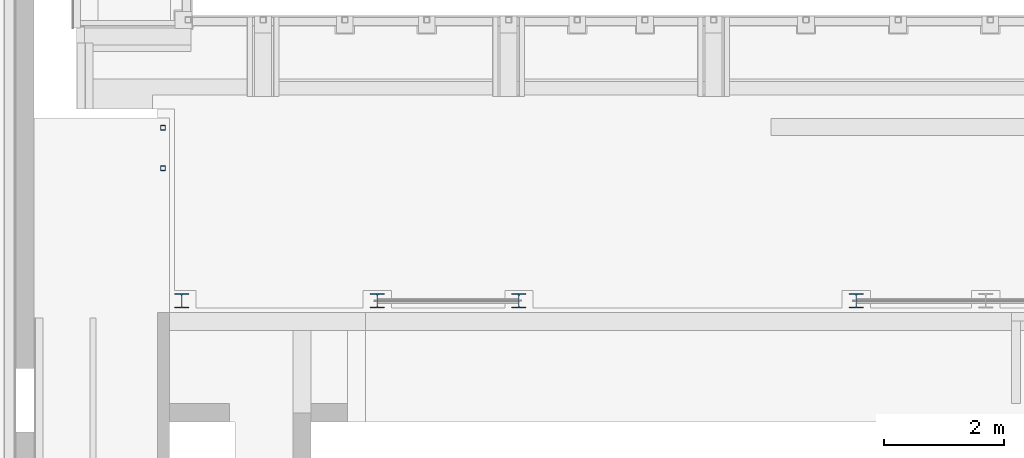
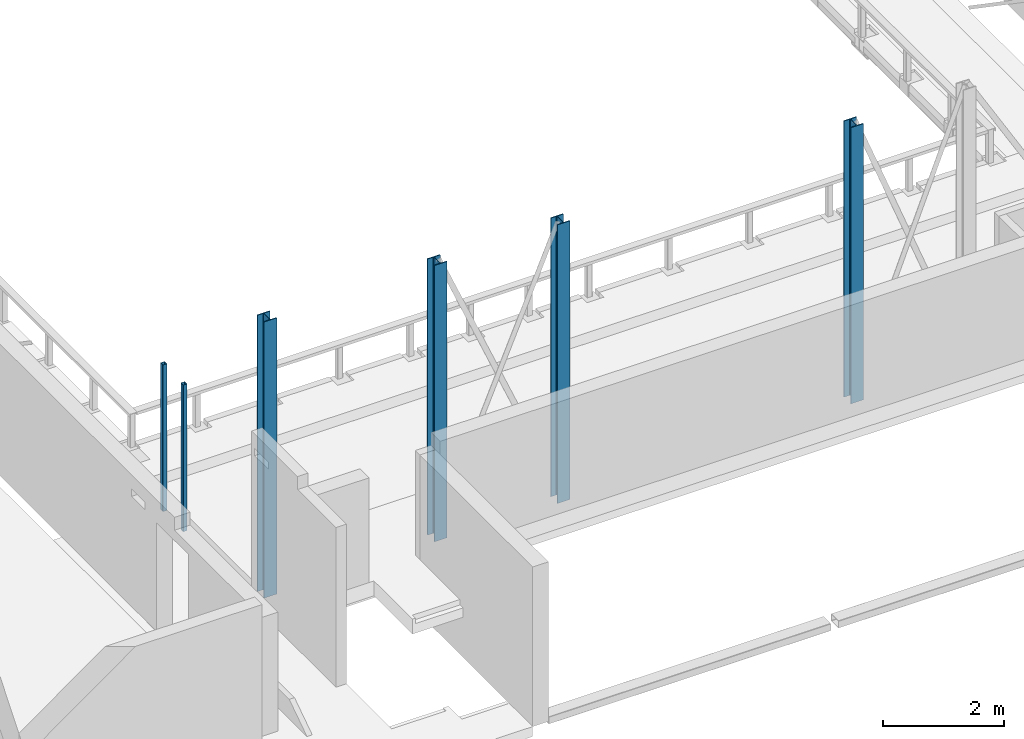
# One storey, part 1 of 68: 6 columns.
"""IFC2X3 building model written with IfcOpenShell, lengths in millimetres."""

from ifc_helpers import new_model, entity, si_unit, converted_unit, derived_unit, direction, frame, frame_2d, origin, place, context, subcontext, project, spatial, polyline, circle_curve, parameter, trimmed, segment, composite_curve, i_section, outline, extrude, source, transform, mapped, material, type_object, type_shapes, element, save


model = new_model("IFC2X3")

# Units and contexts
model_context = context("Model", 3, precision=0.01, world=origin(), true_north=direction((6.12303176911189e-17, 1.0)))
body_context = subcontext(model_context, "Body", "Model", "MODEL_VIEW")
ifc_project = project(units=[si_unit("LENGTHUNIT", "METRE", prefix="MILLI"), si_unit("AREAUNIT", "SQUARE_METRE", prefix="MILLI"), si_unit("VOLUMEUNIT", "CUBIC_METRE"), converted_unit("PLANEANGLEUNIT", "DEGREE", entity("IfcRatioMeasure", 0.0174532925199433), si_unit("PLANEANGLEUNIT", "RADIAN"), dimensions=[0, 0, 0, 0, 0, 0, 0]), si_unit("MASSUNIT", "GRAM", prefix="KILO"), derived_unit("MASSDENSITYUNIT", [(si_unit("MASSUNIT", "GRAM", prefix="KILO"), 1), (si_unit("LENGTHUNIT", "METRE"), -3)]), derived_unit("MOMENTOFINERTIAUNIT", [(si_unit("LENGTHUNIT", "METRE"), 4)]), si_unit("TIMEUNIT", "SECOND"), si_unit("FREQUENCYUNIT", "HERTZ"), si_unit("THERMODYNAMICTEMPERATUREUNIT", "DEGREE_CELSIUS"), derived_unit("THERMALTRANSMITTANCEUNIT", [(si_unit("MASSUNIT", "GRAM", prefix="KILO"), 1), (si_unit("THERMODYNAMICTEMPERATUREUNIT", "KELVIN"), -1), (si_unit("TIMEUNIT", "SECOND"), -3)]), derived_unit("VOLUMETRICFLOWRATEUNIT", [(si_unit("LENGTHUNIT", "METRE"), 3), (si_unit("TIMEUNIT", "SECOND"), -1)]), si_unit("ELECTRICCURRENTUNIT", "AMPERE"), si_unit("ELECTRICVOLTAGEUNIT", "VOLT"), si_unit("POWERUNIT", "WATT"), si_unit("FORCEUNIT", "NEWTON", prefix="KILO"), si_unit("ILLUMINANCEUNIT", "LUX"), si_unit("LUMINOUSFLUXUNIT", "LUMEN"), si_unit("LUMINOUSINTENSITYUNIT", "CANDELA"), derived_unit("USERDEFINED", [(si_unit("MASSUNIT", "GRAM", prefix="KILO"), -1), (si_unit("LENGTHUNIT", "METRE"), -2), (si_unit("TIMEUNIT", "SECOND"), 3), (si_unit("LUMINOUSFLUXUNIT", "LUMEN"), 1)]), derived_unit("LINEARVELOCITYUNIT", [(si_unit("LENGTHUNIT", "METRE"), 1), (si_unit("TIMEUNIT", "SECOND"), -1)]), si_unit("PRESSUREUNIT", "PASCAL"), derived_unit("USERDEFINED", [(si_unit("LENGTHUNIT", "METRE"), -2), (si_unit("MASSUNIT", "GRAM", prefix="KILO"), 1), (si_unit("TIMEUNIT", "SECOND"), -2)]), derived_unit("LINEARFORCEUNIT", [(si_unit("MASSUNIT", "GRAM", prefix="KILO"), 1), (si_unit("LENGTHUNIT", "METRE"), 1), (si_unit("TIMEUNIT", "SECOND"), -2), (si_unit("LENGTHUNIT", "METRE"), -1)]), derived_unit("PLANARFORCEUNIT", [(si_unit("MASSUNIT", "GRAM", prefix="KILO"), 1), (si_unit("LENGTHUNIT", "METRE"), 1), (si_unit("TIMEUNIT", "SECOND"), -2), (si_unit("LENGTHUNIT", "METRE"), -2)])], contexts=[model_context])

# Site, building, storey
site_placement = place(None, origin())
site = spatial("IfcSite", under=ifc_project, at=site_placement, Name="Theater aan de Parade", CompositionType="ELEMENT")
building_placement = place(site_placement, origin())
building = spatial("IfcBuilding", under=site, at=building_placement, Name="Theater aan de Parade", CompositionType="ELEMENT")
storey_placement = place(building_placement, frame((0.0, 0.0, 8750.0)))
storey = spatial("IfcBuildingStorey", under=building, at=storey_placement, Name="02 tweede verdieping", CompositionType="ELEMENT", Elevation=8750.0)

# Columns
ifc_material = material(Name="00_PBT_MAT_staal_S355")
column_type_1 = type_object("IfcColumnType", Name="28_PBT_SC_staal_H-profiel:S355_HE240B", PredefinedType="COLUMN", material=ifc_material)
shared_shape_1 = source(origin(), body_context, "Body", "SweptSolid", [
    extrude(i_section(OverallWidth=240.0, OverallDepth=240.0, WebThickness=9.99999999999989, FlangeThickness=17.0000000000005, FilletRadius=20.9999999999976, at=frame_2d((-1.08713038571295e-12, 1.08713038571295e-12), x_axis=(0.0, 1.0))), frame((17803.8570025, 14676.2906196, 8625.0), z_axis=(0.0, 0.0, 1.0), x_axis=(0.0, -1.0, 0.0)), (0.0, 0.0, 1.0), 5575.0),
])
type_shapes(column_type_1, [shared_shape_1])
column_1_placement = place(storey_placement, frame((0.0, 0.0, -8750.0)))
element("IfcColumn", 1, at=column_1_placement, inside=storey, type_object=column_type_1, material=ifc_material, Name="28_PBT_SC_staal_H-profiel:S355_HE240B", ObjectType="28_PBT_SC_staal_H-profiel:S355_HE240B", context=body_context, shape_type="MappedRepresentation", body=[
    mapped(shared_shape_1, transform((0.0, 0.0, 0.0), scale=1.0)),
])
column_type_2 = type_object("IfcColumnType", Name="28_PBT_SC_staal_H-profiel:S355_HE240B", PredefinedType="COLUMN", material=ifc_material)
shared_shape_2 = source(origin(), body_context, "Body", "SweptSolid", [
    extrude(i_section(OverallWidth=240.000000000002, OverallDepth=240.0, WebThickness=10.0000000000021, FlangeThickness=17.0000000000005, FilletRadius=20.9999999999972, at=frame_2d((1.08713038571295e-12, -6.50146603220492e-12), x_axis=(0.0, 1.0))), frame((21053.8570032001, 14676.2906196, 8625.0), z_axis=(0.0, 0.0, 1.0), x_axis=(0.0, -1.0, 0.0)), (0.0, 0.0, 1.0), 5575.0),
])
type_shapes(column_type_2, [shared_shape_2])
column_2_placement = place(storey_placement, frame((0.0, 0.0, -8750.0)))
element("IfcColumn", 2, at=column_2_placement, inside=storey, type_object=column_type_2, material=ifc_material, Name="28_PBT_SC_staal_H-profiel:S355_HE240B", ObjectType="28_PBT_SC_staal_H-profiel:S355_HE240B", context=body_context, shape_type="MappedRepresentation", body=[
    mapped(shared_shape_2, transform((0.0, 0.0, 0.0), scale=1.0)),
])
column_type_3 = type_object("IfcColumnType", Name="28_PBT_SC_staal_H-profiel:S355_HE240B", PredefinedType="COLUMN", material=ifc_material)
shared_shape_3 = source(origin(), body_context, "Body", "SweptSolid", [
    extrude(i_section(OverallWidth=240.000000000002, OverallDepth=240.0, WebThickness=10.0000000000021, FlangeThickness=17.0000000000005, FilletRadius=20.9999999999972, at=frame_2d((-1.08713038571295e-12, -2.16715534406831e-12), x_axis=(0.0, 1.0))), frame((29003.8570032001, 14676.2906195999, 8625.0), z_axis=(0.0, 0.0, 1.0), x_axis=(0.0, -1.0, 0.0)), (0.0, 0.0, 1.0), 5575.0),
])
type_shapes(column_type_3, [shared_shape_3])
column_3_placement = place(storey_placement, frame((0.0, 0.0, -8750.0)))
element("IfcColumn", 3, at=column_3_placement, inside=storey, type_object=column_type_3, material=ifc_material, Name="28_PBT_SC_staal_H-profiel:S355_HE240B", ObjectType="28_PBT_SC_staal_H-profiel:S355_HE240B", context=body_context, shape_type="MappedRepresentation", body=[
    mapped(shared_shape_3, transform((0.0, 0.0, 0.0), scale=1.0)),
])
column_type_4 = type_object("IfcColumnType", Name="28_PBT_SC_staal_H-profiel:S355_HE240B", PredefinedType="COLUMN", material=ifc_material)
shared_shape_4 = source(origin(), body_context, "Body", "SweptSolid", [
    extrude(i_section(OverallWidth=240.000000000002, OverallDepth=240.0, WebThickness=10.0000000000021, FlangeThickness=17.0000000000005, FilletRadius=20.9999999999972, at=frame_2d((-1.08713038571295e-12, -2.16715534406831e-12), x_axis=(0.0, 1.0))), frame((23403.8570032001, 14676.2906196, 8575.0), z_axis=(0.0, 0.0, 1.0), x_axis=(0.0, -1.0, 0.0)), (0.0, 0.0, 1.0), 5625.0),
])
type_shapes(column_type_4, [shared_shape_4])
column_4_placement = place(storey_placement, frame((0.0, 0.0, -8750.0)))
element("IfcColumn", 4, at=column_4_placement, inside=storey, type_object=column_type_4, material=ifc_material, Name="28_PBT_SC_staal_H-profiel:S355_HE240B", ObjectType="28_PBT_SC_staal_H-profiel:S355_HE240B", context=body_context, shape_type="MappedRepresentation", body=[
    mapped(shared_shape_4, transform((0.0, 0.0, 0.0), scale=1.0)),
])
column_type_5 = type_object("IfcColumnType", Name="28_PBT_SC_staal_koker:S355_K80x80x5", PredefinedType="COLUMN", material=ifc_material)
shared_shape_5 = source(origin(), body_context, "Body", "SweptSolid", [
    extrude(outline(composite_curve([segment(trimmed(circle_curve(frame_2d((-32.4999999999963, -32.5000000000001), x_axis=(1.0, 0.0)), 7.5), [parameter(180.0)], [parameter(270.0)], True, "PARAMETER"), True, "CONTINUOUS"), segment(polyline([(-32.4999999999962, -40.0), (32.5000000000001, -40.0)]), True, "CONTINUOUS"), segment(trimmed(circle_curve(frame_2d((32.5000000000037, -32.4999999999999), x_axis=(1.0, 0.0)), 7.5), [parameter(270.0)], [parameter(5.08888749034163e-14)], True, "PARAMETER"), True, "CONTINUOUS"), segment(polyline([(40.0, -32.4999999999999), (40.0, 32.5000000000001)]), True, "CONTINUOUS"), segment(trimmed(circle_curve(frame_2d((32.5000000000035, 32.5000000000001), x_axis=(1.0, 0.0)), 7.5), [parameter(3.56222124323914e-13)], [parameter(90.0000000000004)], True, "PARAMETER"), True, "CONTINUOUS"), segment(polyline([(32.4999999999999, 40.0), (-32.4999999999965, 40.0)]), True, "CONTINUOUS"), segment(trimmed(circle_curve(frame_2d((-32.4999999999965, 32.4999999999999), x_axis=(1.0, 0.0)), 7.5), [parameter(90.0)], [parameter(180.0)], True, "PARAMETER"), True, "CONTINUOUS"), segment(polyline([(-40.0, 32.4999999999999), (-40.0, -32.5000000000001)]), True, "CONTINUOUS")], self_intersect=False), holes=[composite_curve([segment(trimmed(circle_curve(frame_2d((30.0, 30.0), x_axis=(1.0, 0.0)), 5.0), [parameter(0.0)], [parameter(90.0000000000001)], True, "PARAMETER"), False, "CONTINUOUS"), segment(polyline([(35.0, 30.0), (35.0, -30.0)]), True, "CONTINUOUS"), segment(trimmed(circle_curve(frame_2d((30.0, -30.0), x_axis=(1.0, 0.0)), 5.0), [parameter(270.0)], [parameter(360.0)], True, "PARAMETER"), False, "CONTINUOUS"), segment(polyline([(30.0, -35.0), (-30.0, -35.0)]), True, "CONTINUOUS"), segment(trimmed(circle_curve(frame_2d((-30.0, -30.0), x_axis=(1.0, 0.0)), 5.0), [parameter(180.0)], [parameter(270.0)], True, "PARAMETER"), False, "CONTINUOUS"), segment(polyline([(-35.0, -30.0), (-35.0, 30.0)]), True, "CONTINUOUS"), segment(trimmed(circle_curve(frame_2d((-30.0, 30.0), x_axis=(1.0, 0.0)), 5.0), [parameter(89.9999999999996)], [parameter(180.0)], True, "PARAMETER"), False, "CONTINUOUS"), segment(polyline([(-30.0, 35.0), (30.0, 35.0)]), True, "CONTINUOUS")], self_intersect=False)]), frame((17493.8570025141, 16878.806619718, 8660.0)), (0.0, 0.0, 1.0), 2960.0),
])
type_shapes(column_type_5, [shared_shape_5])
column_5_placement = place(storey_placement, frame((0.0, 0.0, -8750.0)))
element("IfcColumn", 5, at=column_5_placement, inside=storey, type_object=column_type_5, material=ifc_material, Name="28_PBT_SC_staal_koker:S355_K80x80x5", ObjectType="28_PBT_SC_staal_koker:S355_K80x80x5", context=body_context, shape_type="MappedRepresentation", body=[
    mapped(shared_shape_5, transform((0.0, 0.0, 0.0), scale=1.0)),
])
column_type_6 = type_object("IfcColumnType", Name="28_PBT_SC_staal_koker:S355_K80x80x5", PredefinedType="COLUMN", material=ifc_material)
shared_shape_6 = source(origin(), body_context, "Body", "SweptSolid", [
    extrude(outline(composite_curve([segment(polyline([(-32.5, -40.0), (32.5, -40.0)]), True, "CONTINUOUS"), segment(trimmed(circle_curve(frame_2d((32.5, -32.5), x_axis=(0.0, 1.0)), 7.5), [parameter(180.0)], [parameter(270.0)], True, "PARAMETER"), True, "CONTINUOUS"), segment(polyline([(40.0, -32.5), (40.0, 32.4999999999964)]), True, "CONTINUOUS"), segment(trimmed(circle_curve(frame_2d((32.5, 32.5), x_axis=(0.0, 1.0)), 7.5), [parameter(270.0)], [parameter(360.0)], True, "PARAMETER"), True, "CONTINUOUS"), segment(polyline([(32.5, 40.0), (-32.5, 40.0)]), True, "CONTINUOUS"), segment(trimmed(circle_curve(frame_2d((-32.5, 32.5), x_axis=(0.0, 1.0)), 7.5), [parameter(360.0)], [parameter(90.0000000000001)], True, "PARAMETER"), True, "CONTINUOUS"), segment(polyline([(-40.0, 32.4999999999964), (-40.0, -32.5)]), True, "CONTINUOUS"), segment(trimmed(circle_curve(frame_2d((-32.5, -32.5), x_axis=(0.0, 1.0)), 7.5), [parameter(90.0)], [parameter(180.0)], True, "PARAMETER"), True, "CONTINUOUS")], self_intersect=False), holes=[composite_curve([segment(polyline([(35.0, 30.0), (35.0, -30.0)]), True, "CONTINUOUS"), segment(trimmed(circle_curve(frame_2d((30.0, -30.0), x_axis=(0.0, 1.0)), 5.0), [parameter(180.0)], [parameter(270.0)], True, "PARAMETER"), False, "CONTINUOUS"), segment(polyline([(30.0, -35.0), (-30.0, -35.0)]), True, "CONTINUOUS"), segment(trimmed(circle_curve(frame_2d((-30.0, -30.0), x_axis=(0.0, 1.0)), 5.0), [parameter(90.0)], [parameter(180.0)], True, "PARAMETER"), False, "CONTINUOUS"), segment(polyline([(-35.0, -30.0), (-35.0, 30.0)]), True, "CONTINUOUS"), segment(trimmed(circle_curve(frame_2d((-30.0, 30.0), x_axis=(0.0, 1.0)), 5.0), [parameter(3.56222124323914e-13)], [parameter(90.0000000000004)], True, "PARAMETER"), False, "CONTINUOUS"), segment(polyline([(-30.0, 35.0), (30.0, 35.0)]), True, "CONTINUOUS"), segment(trimmed(circle_curve(frame_2d((30.0, 30.0), x_axis=(0.0, 1.0)), 5.0), [parameter(270.0)], [parameter(0.0)], True, "PARAMETER"), False, "CONTINUOUS")], self_intersect=False)]), frame((17493.8570025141, 17549.7274014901, 8660.0), z_axis=(0.0, 0.0, 1.0), x_axis=(0.0, -1.0, 0.0)), (0.0, 0.0, 1.0), 2960.0),
])
type_shapes(column_type_6, [shared_shape_6])
column_6_placement = place(storey_placement, frame((0.0, 0.0, -8750.0)))
element("IfcColumn", 6, at=column_6_placement, inside=storey, type_object=column_type_6, material=ifc_material, Name="28_PBT_SC_staal_koker:S355_K80x80x5", ObjectType="28_PBT_SC_staal_koker:S355_K80x80x5", context=body_context, shape_type="MappedRepresentation", body=[
    mapped(shared_shape_6, transform((0.0, 0.0, 0.0), scale=1.0)),
])

save(model, "model.ifc")
